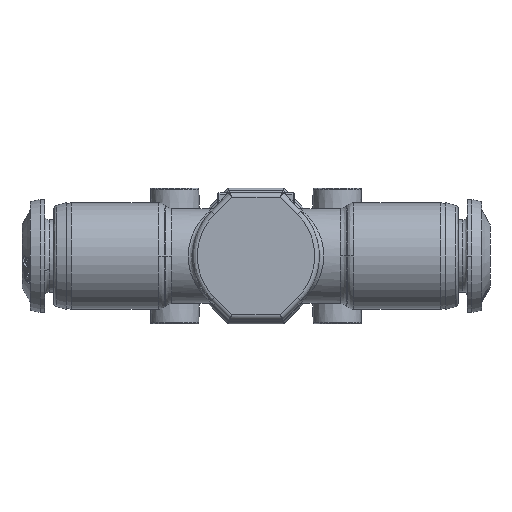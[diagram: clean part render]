
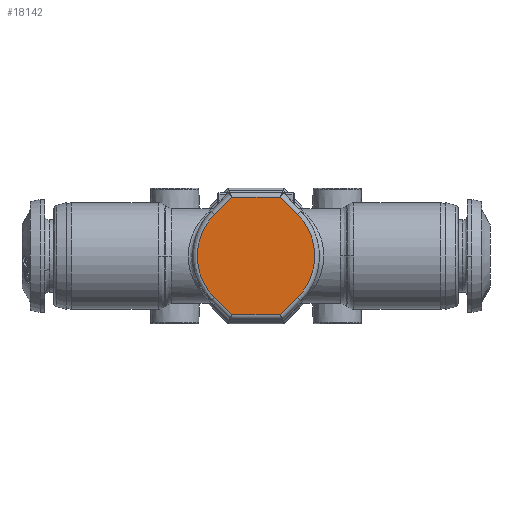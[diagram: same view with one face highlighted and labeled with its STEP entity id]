
A CAD part, front view. The second image highlights one B-rep face of the part: STEP entity #18142.
In plain terms, the highlighted planar face has unit normal (0, -1, 0).
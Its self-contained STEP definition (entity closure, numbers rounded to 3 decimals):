
#2005 = VERTEX_POINT ( 'NONE', #27022 ) ;
#2473 = VERTEX_POINT ( 'NONE', #25315 ) ;
#2475 = VERTEX_POINT ( 'NONE', #25299 ) ;
#2492 = VERTEX_POINT ( 'NONE', #25039 ) ;
#2507 = VERTEX_POINT ( 'NONE', #24966 ) ;
#2515 = VERTEX_POINT ( 'NONE', #24908 ) ;
#5967 = FACE_OUTER_BOUND ( 'NONE', #17405, .T. ) ;
#6498 = DIRECTION ( 'NONE',  ( -0.707, 0., 0.707 ) ) ;
#6499 = CARTESIAN_POINT ( 'NONE',  ( 3.587, 0., 5.605 ) ) ;
#6500 = DIRECTION ( 'NONE',  ( 0.707, 0., 0.707 ) ) ;
#6501 = CARTESIAN_POINT ( 'NONE',  ( 3.587, 0., -5.605 ) ) ;
#6505 = CARTESIAN_POINT ( 'NONE',  ( 0., 0., -6.5 ) ) ;
#6517 = DIRECTION ( 'NONE',  ( 1., 0., 0. ) ) ;
#6518 = DIRECTION ( 'NONE',  ( 0.707, 0., -0.707 ) ) ;
#6519 = CARTESIAN_POINT ( 'NONE',  ( -3.587, 0., -5.605 ) ) ;
#6520 = DIRECTION ( 'NONE',  ( -0.707, 0., -0.707 ) ) ;
#6521 = DIRECTION ( 'NONE',  ( -1., 0., 0. ) ) ;
#6524 = CARTESIAN_POINT ( 'NONE',  ( 0., 0., 6.5 ) ) ;
#6533 = CARTESIAN_POINT ( 'NONE',  ( -3.587, 0., 5.605 ) ) ;
#6766 = CARTESIAN_POINT ( 'NONE',  ( -4.596, 0., 4.596 ) ) ;
#6767 = CARTESIAN_POINT ( 'NONE',  ( -7.289, 0., 1.904 ) ) ;
#6772 = CARTESIAN_POINT ( 'NONE',  ( -7.289, 0., -1.904 ) ) ;
#6782 = CARTESIAN_POINT ( 'NONE',  ( -4.596, 0., -4.596 ) ) ;
#7305 =( BOUNDED_CURVE ( )  B_SPLINE_CURVE ( 3, ( #6782, #6772, #6767, #6766 ),
 .UNSPECIFIED., .F., .T. ) 
 B_SPLINE_CURVE_WITH_KNOTS ( ( 4, 4 ),
 ( 0., 1. ),
 .UNSPECIFIED. ) 
 CURVE ( )  GEOMETRIC_REPRESENTATION_ITEM ( )  RATIONAL_B_SPLINE_CURVE ( ( 0.957, 0.77, 0.77, 0.957 ) ) 
 REPRESENTATION_ITEM ( '' )  );
#7499 =( BOUNDED_CURVE ( )  B_SPLINE_CURVE ( 3, ( #13051, #13052, #13045, #13044 ),
 .UNSPECIFIED., .F., .T. ) 
 B_SPLINE_CURVE_WITH_KNOTS ( ( 4, 4 ),
 ( 0., 1. ),
 .UNSPECIFIED. ) 
 CURVE ( )  GEOMETRIC_REPRESENTATION_ITEM ( )  RATIONAL_B_SPLINE_CURVE ( ( 0.957, 0.77, 0.77, 0.957 ) ) 
 REPRESENTATION_ITEM ( '' )  );
#12729 = EDGE_CURVE ( 'NONE', #2473, #2475, #7499, .T. ) ;
#12867 = EDGE_CURVE ( 'NONE', #2507, #2492, #7305, .T. ) ;
#12887 = EDGE_CURVE ( 'NONE', #2005, #33840, #15982, .T. ) ;
#12888 = EDGE_CURVE ( 'NONE', #33840, #2492, #15983, .T. ) ;
#12889 = EDGE_CURVE ( 'NONE', #2507, #2515, #15977, .T. ) ;
#12892 = EDGE_CURVE ( 'NONE', #2515, #33842, #15972, .T. ) ;
#12893 = EDGE_CURVE ( 'NONE', #33842, #2475, #15973, .T. ) ;
#12894 = EDGE_CURVE ( 'NONE', #2473, #2005, #15970, .T. ) ;
#13044 = CARTESIAN_POINT ( 'NONE',  ( 4.596, 0., -4.596 ) ) ;
#13045 = CARTESIAN_POINT ( 'NONE',  ( 7.289, 0., -1.904 ) ) ;
#13051 = CARTESIAN_POINT ( 'NONE',  ( 4.596, 0., 4.596 ) ) ;
#13052 = CARTESIAN_POINT ( 'NONE',  ( 7.289, 0., 1.904 ) ) ;
#13261 = PLANE ( 'NONE',  #22670 ) ;
#13263 = CARTESIAN_POINT ( 'NONE',  ( -6.578, 0., -6.5 ) ) ;
#13264 = DIRECTION ( 'NONE',  ( 0., 1., 0. ) ) ;
#13265 = DIRECTION ( 'NONE',  ( 0., 0., 1. ) ) ;
#15967 = VECTOR ( 'NONE', #6498, 1000. ) ;
#15969 = VECTOR ( 'NONE', #6500, 1000. ) ;
#15970 = LINE ( 'NONE', #6499, #15967 ) ;
#15971 = VECTOR ( 'NONE', #6517, 1000. ) ;
#15972 = LINE ( 'NONE', #6505, #15971 ) ;
#15973 = LINE ( 'NONE', #6501, #15969 ) ;
#15974 = VECTOR ( 'NONE', #6518, 1000. ) ;
#15976 = VECTOR ( 'NONE', #6520, 1000. ) ;
#15977 = LINE ( 'NONE', #6519, #15974 ) ;
#15979 = VECTOR ( 'NONE', #6521, 1000. ) ;
#15982 = LINE ( 'NONE', #6524, #15979 ) ;
#15983 = LINE ( 'NONE', #6533, #15976 ) ;
#17405 = EDGE_LOOP ( 'NONE', ( #21038, #21037, #21036, #21035, #21034, #21033, #21032, #21031 ) ) ;
#18142 = ADVANCED_FACE ( 'NONE', ( #5967 ), #13261, .F. ) ;
#20249 = CARTESIAN_POINT ( 'NONE',  ( -2.692, 0., 6.5 ) ) ;
#20250 = CARTESIAN_POINT ( 'NONE',  ( 2.692, 0., -6.5 ) ) ;
#21031 = ORIENTED_EDGE ( 'NONE', *, *, #12894, .T. ) ;
#21032 = ORIENTED_EDGE ( 'NONE', *, *, #12729, .F. ) ;
#21033 = ORIENTED_EDGE ( 'NONE', *, *, #12893, .T. ) ;
#21034 = ORIENTED_EDGE ( 'NONE', *, *, #12892, .T. ) ;
#21035 = ORIENTED_EDGE ( 'NONE', *, *, #12889, .T. ) ;
#21036 = ORIENTED_EDGE ( 'NONE', *, *, #12867, .F. ) ;
#21037 = ORIENTED_EDGE ( 'NONE', *, *, #12888, .T. ) ;
#21038 = ORIENTED_EDGE ( 'NONE', *, *, #12887, .T. ) ;
#22670 = AXIS2_PLACEMENT_3D ( 'NONE', #13263, #13264, #13265 ) ;
#24908 = CARTESIAN_POINT ( 'NONE',  ( -2.692, 0., -6.5 ) ) ;
#24966 = CARTESIAN_POINT ( 'NONE',  ( -4.596, 0., -4.596 ) ) ;
#25039 = CARTESIAN_POINT ( 'NONE',  ( -4.596, 0., 4.596 ) ) ;
#25299 = CARTESIAN_POINT ( 'NONE',  ( 4.596, 0., -4.596 ) ) ;
#25315 = CARTESIAN_POINT ( 'NONE',  ( 4.596, 0., 4.596 ) ) ;
#27022 = CARTESIAN_POINT ( 'NONE',  ( 2.692, 0., 6.5 ) ) ;
#33840 = VERTEX_POINT ( 'NONE', #20249 ) ;
#33842 = VERTEX_POINT ( 'NONE', #20250 ) ;
